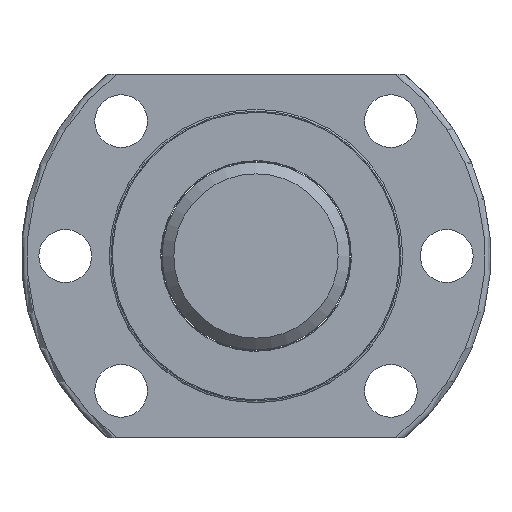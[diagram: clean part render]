
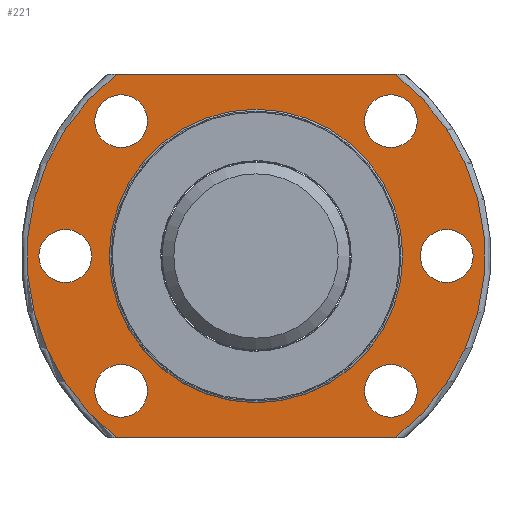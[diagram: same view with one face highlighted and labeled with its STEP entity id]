
A CAD part, left-side view. The second image highlights one B-rep face of the part: STEP entity #221.
In plain terms, the highlighted planar face has unit normal (-1, 0, 0).
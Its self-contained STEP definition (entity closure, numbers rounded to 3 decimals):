
#107=LINE('',#1310,#115);
#108=LINE('',#1314,#116);
#115=VECTOR('',#1041,1.);
#116=VECTOR('',#1044,1.);
#157=PLANE('',#856);
#180=FACE_OUTER_BOUND('',#410,.T.);
#221=ADVANCED_FACE('',(#310,#311,#312,#313,#180,#314,#315,#316),#157,.F.);
#310=FACE_BOUND('',#406,.T.);
#311=FACE_BOUND('',#407,.T.);
#312=FACE_BOUND('',#408,.T.);
#313=FACE_BOUND('',#409,.T.);
#314=FACE_BOUND('',#411,.T.);
#315=FACE_BOUND('',#412,.T.);
#316=FACE_BOUND('',#413,.T.);
#406=EDGE_LOOP('',(#522));
#407=EDGE_LOOP('',(#523));
#408=EDGE_LOOP('',(#524));
#409=EDGE_LOOP('',(#525));
#410=EDGE_LOOP('',(#526,#527,#528,#529));
#411=EDGE_LOOP('',(#530));
#412=EDGE_LOOP('',(#531));
#413=EDGE_LOOP('',(#532));
#522=ORIENTED_EDGE('',*,*,#696,.T.);
#523=ORIENTED_EDGE('',*,*,#697,.T.);
#524=ORIENTED_EDGE('',*,*,#698,.F.);
#525=ORIENTED_EDGE('',*,*,#699,.F.);
#526=ORIENTED_EDGE('',*,*,#681,.T.);
#527=ORIENTED_EDGE('',*,*,#700,.T.);
#528=ORIENTED_EDGE('',*,*,#701,.T.);
#529=ORIENTED_EDGE('',*,*,#702,.T.);
#530=ORIENTED_EDGE('',*,*,#703,.F.);
#531=ORIENTED_EDGE('',*,*,#704,.T.);
#532=ORIENTED_EDGE('',*,*,#705,.F.);
#617=VERTEX_POINT('',#1217);
#618=VERTEX_POINT('',#1219);
#630=VERTEX_POINT('',#1303);
#631=VERTEX_POINT('',#1305);
#632=VERTEX_POINT('',#1307);
#633=VERTEX_POINT('',#1309);
#634=VERTEX_POINT('',#1311);
#635=VERTEX_POINT('',#1313);
#636=VERTEX_POINT('',#1316);
#637=VERTEX_POINT('',#1318);
#638=VERTEX_POINT('',#1320);
#681=EDGE_CURVE('',#618,#617,#749,.T.);
#696=EDGE_CURVE('',#630,#630,#759,.T.);
#697=EDGE_CURVE('',#631,#631,#760,.T.);
#698=EDGE_CURVE('',#632,#632,#761,.T.);
#699=EDGE_CURVE('',#633,#633,#762,.T.);
#700=EDGE_CURVE('',#617,#634,#107,.T.);
#701=EDGE_CURVE('',#634,#635,#763,.T.);
#702=EDGE_CURVE('',#635,#618,#108,.T.);
#703=EDGE_CURVE('',#636,#636,#764,.T.);
#704=EDGE_CURVE('',#637,#637,#765,.T.);
#705=EDGE_CURVE('',#638,#638,#766,.T.);
#749=CIRCLE('',#835,39.);
#759=CIRCLE('',#848,4.5);
#760=CIRCLE('',#849,4.5);
#761=CIRCLE('',#850,4.5);
#762=CIRCLE('',#851,25.);
#763=CIRCLE('',#852,39.);
#764=CIRCLE('',#853,4.5);
#765=CIRCLE('',#854,4.5);
#766=CIRCLE('',#855,4.5);
#835=AXIS2_PLACEMENT_3D('',#1218,#1005,#1006);
#848=AXIS2_PLACEMENT_3D('',#1302,#1033,#1034);
#849=AXIS2_PLACEMENT_3D('',#1304,#1035,#1036);
#850=AXIS2_PLACEMENT_3D('',#1306,#1037,#1038);
#851=AXIS2_PLACEMENT_3D('',#1308,#1039,#1040);
#852=AXIS2_PLACEMENT_3D('',#1312,#1042,#1043);
#853=AXIS2_PLACEMENT_3D('',#1315,#1045,#1046);
#854=AXIS2_PLACEMENT_3D('',#1317,#1047,#1048);
#855=AXIS2_PLACEMENT_3D('',#1319,#1049,#1050);
#856=AXIS2_PLACEMENT_3D('',#1321,#1051,#1052);
#1005=DIRECTION('',(-1.,0.,0.));
#1006=DIRECTION('',(0.,0.,-1.));
#1033=DIRECTION('',(1.,0.,0.));
#1034=DIRECTION('',(0.,0.,-1.));
#1035=DIRECTION('',(1.,0.,0.));
#1036=DIRECTION('',(0.,0.,-1.));
#1037=DIRECTION('',(-1.,0.,0.));
#1038=DIRECTION('',(0.,0.,-1.));
#1039=DIRECTION('',(-1.,0.,0.));
#1040=DIRECTION('',(0.,0.,1.));
#1041=DIRECTION('',(0.,1.,0.));
#1042=DIRECTION('',(-1.,0.,0.));
#1043=DIRECTION('',(0.,0.,-1.));
#1044=DIRECTION('',(0.,-1.,0.));
#1045=DIRECTION('',(-1.,0.,0.));
#1046=DIRECTION('',(0.,0.,-1.));
#1047=DIRECTION('',(1.,0.,0.));
#1048=DIRECTION('',(0.,0.,-1.));
#1049=DIRECTION('',(-1.,0.,0.));
#1050=DIRECTION('',(0.,0.,-1.));
#1051=DIRECTION('',(1.,0.,0.));
#1052=DIRECTION('',(0.,0.,-1.));
#1217=CARTESIAN_POINT('',(37.5,-23.664,31.));
#1218=CARTESIAN_POINT('',(37.5,0.,0.));
#1219=CARTESIAN_POINT('',(37.5,-23.664,-31.));
#1302=CARTESIAN_POINT('',(37.5,32.5,0.));
#1303=CARTESIAN_POINT('',(37.5,32.5,-4.5));
#1304=CARTESIAN_POINT('',(37.5,22.981,22.981));
#1305=CARTESIAN_POINT('',(37.5,22.981,18.481));
#1306=CARTESIAN_POINT('',(37.5,-32.5,0.));
#1307=CARTESIAN_POINT('',(37.5,-32.5,-4.5));
#1308=CARTESIAN_POINT('',(37.5,0.,0.));
#1309=CARTESIAN_POINT('',(37.5,0.,25.));
#1310=CARTESIAN_POINT('',(37.5,-26.068,31.));
#1311=CARTESIAN_POINT('',(37.5,23.664,31.));
#1312=CARTESIAN_POINT('',(37.5,0.,0.));
#1313=CARTESIAN_POINT('',(37.5,23.664,-31.));
#1314=CARTESIAN_POINT('',(37.5,-26.068,-31.));
#1315=CARTESIAN_POINT('',(37.5,-22.981,22.981));
#1316=CARTESIAN_POINT('',(37.5,-22.981,18.481));
#1317=CARTESIAN_POINT('',(37.5,-22.981,-22.981));
#1318=CARTESIAN_POINT('',(37.5,-22.981,-27.481));
#1319=CARTESIAN_POINT('',(37.5,22.981,-22.981));
#1320=CARTESIAN_POINT('',(37.5,22.981,-27.481));
#1321=CARTESIAN_POINT('',(37.5,-26.068,0.));
